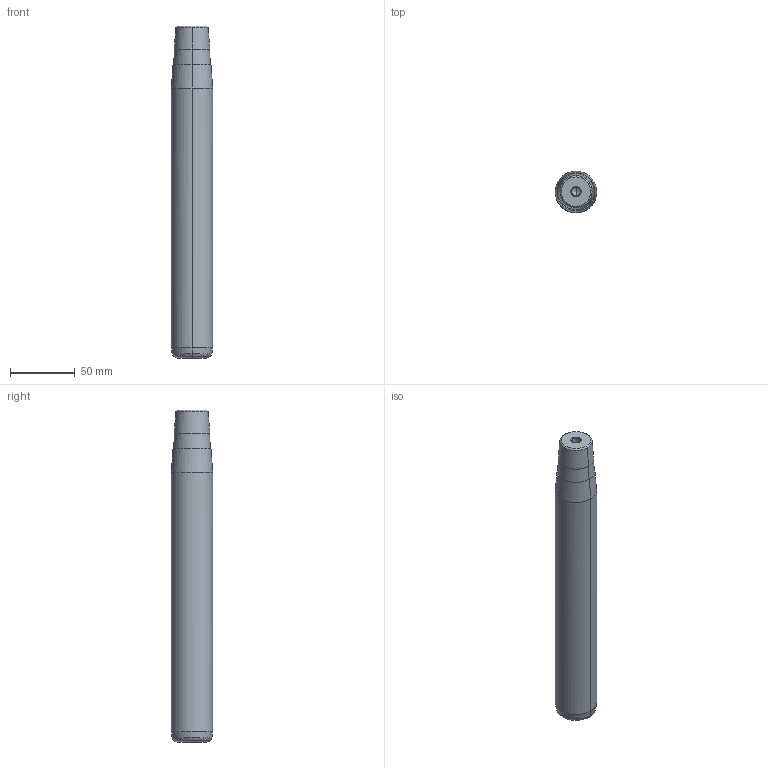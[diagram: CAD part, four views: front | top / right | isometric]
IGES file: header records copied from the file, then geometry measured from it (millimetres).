
Start section: START RECORD GO HERE.
Global section: file name: 722-32x224x257.igs; native system: DASSAULT SYSTEMES CATIA V5 R20 - www.3ds.com; preprocessor: CATIA Version 5 Release 20 ; author: Utente; organization: NB04-ASUS; date: 20210108.170908; units: millimetre
Bounding box: 32 x 32 x 257 mm (x, y, z)
Surface area: 27411.1 mm2 (no closed solid volume)
Topology: 0 solids, 0 shells, 32 faces, 192 edges, 188 vertices
Faces by surface type: revolution 30, plane 2
